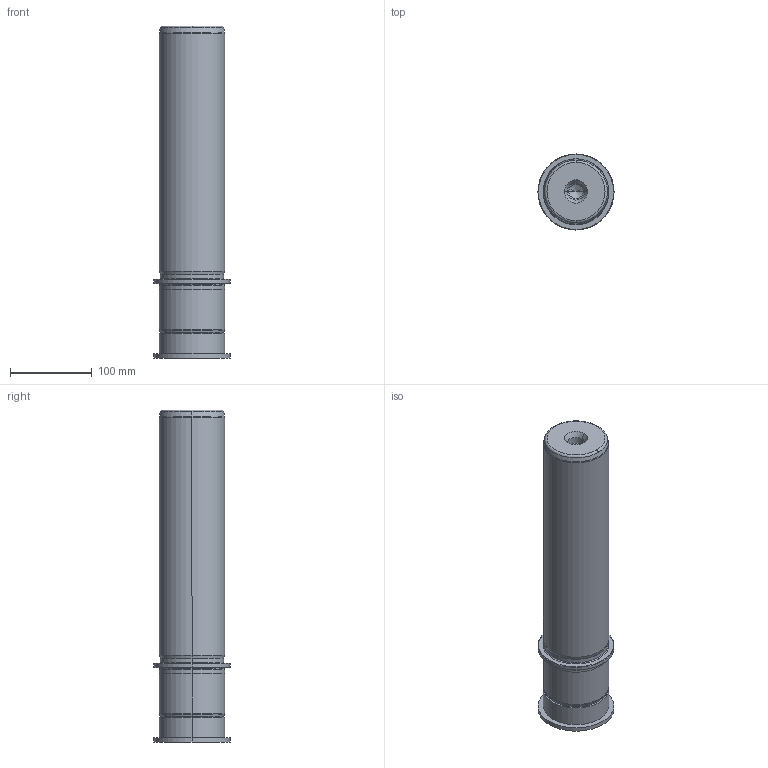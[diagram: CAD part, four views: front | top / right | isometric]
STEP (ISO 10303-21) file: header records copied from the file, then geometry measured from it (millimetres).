
FILE_DESCRIPTION((''),'2;1');
FILE_NAME('P22_080_315.stp','2009-02-03T10:16:11',(''),(''),'Mechanical Desktop 2009','Mechanical Desktop 2009',', , ');
FILE_SCHEMA(('CONFIG_CONTROL_DESIGN'));
Length unit declared in the file: millimetre
Products named in the file (2): Product; blmdl1
Assembly tree (1 placements, depth 2):
  Product
    blmdl1
Bounding box: 93 x 93 x 406 mm (x, y, z)
Volume: 2024828.6 mm3; surface area: 143223.7 mm2
Topology: 3 solids, 3 shells, 99 faces, 237 edges, 149 vertices
Faces by surface type: cylinder 32, cone 28, plane 19, torus 10, bspline 10
Entity records: 3419 total; most frequent: CARTESIAN_POINT 923, DIRECTION 570, ORIENTED_EDGE 466, AXIS2_PLACEMENT_3D 246, EDGE_CURVE 233, CIRCLE 155, VERTEX_POINT 149, EDGE_LOOP 110
